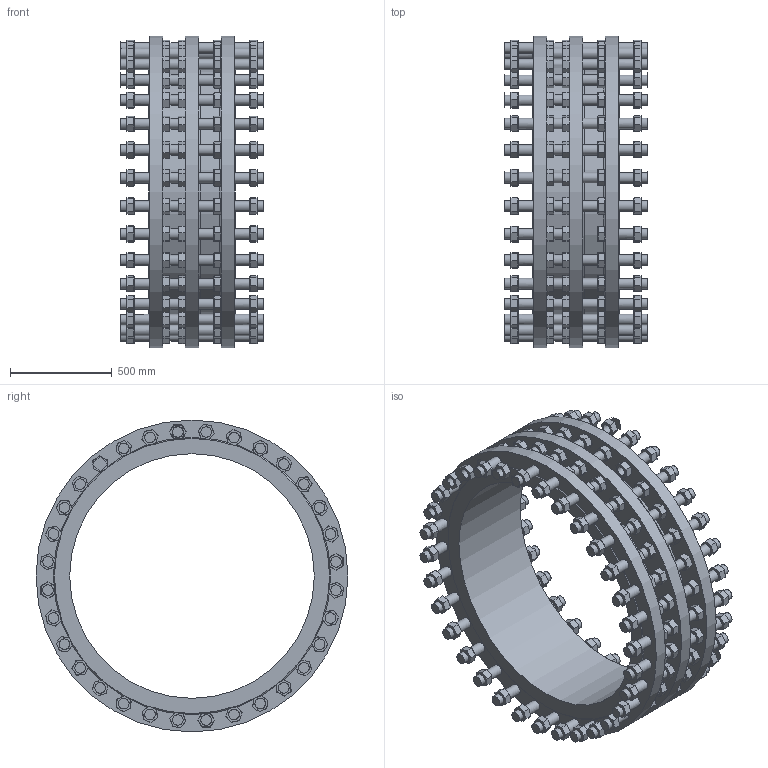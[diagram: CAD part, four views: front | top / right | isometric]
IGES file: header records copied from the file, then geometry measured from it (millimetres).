
Start section: SolidWorks IGES file using analytic representation for surfaces
Global section: file name: X:\AR\CV\873\873-1200-00-741000\873120000741000.IGS; native system: SolidWorks 2020; preprocessor: SolidWorks 2020; author: m.lucatello; date: 211105.112956; units: millimetre
Bounding box: 700 x 1530 x 1530 mm (x, y, z)
Surface area: 12544349.6 mm2 (no closed solid volume)
Topology: 0 solids, 0 shells, 3571 faces, 15028 edges, 14730 vertices
Faces by surface type: bspline 3273, revolution 298
